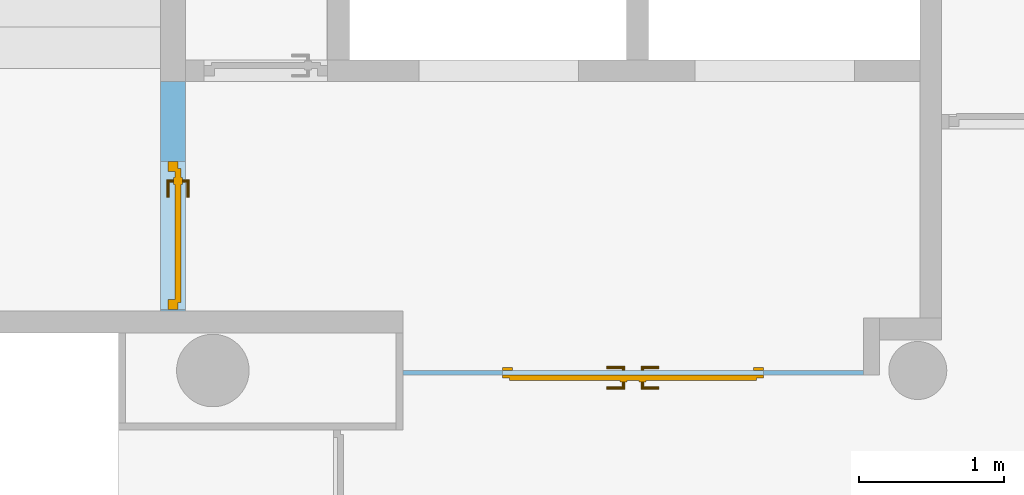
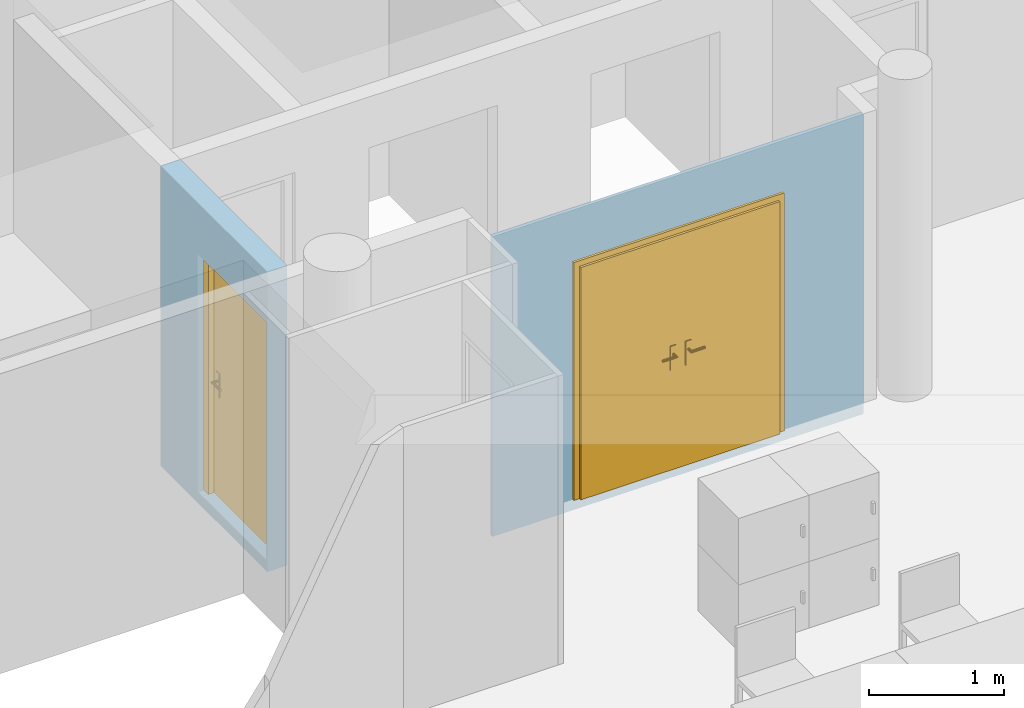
"""IFC4 building model written with IfcOpenShell, lengths in metres."""

from ifc_helpers import new_model, entity, si_unit, converted_unit, derived_unit, frame, frame_2d, origin, origin_with_axes, place, context, subcontext, project, spatial, polyline, rectangle, outline, extrude, faceted_brep, source, transform, mapped, material, layer, layer_set, layer_usage, element, fill, save


model = new_model("IFC4")

# Units and contexts
model_context = context("Model", 3, precision=1e-05, world=origin())
body_context = subcontext(model_context, "Body", "Model", "MODEL_VIEW")
ifc_project = project(units=[si_unit("LENGTHUNIT", "METRE"), si_unit("AREAUNIT", "SQUARE_METRE"), si_unit("VOLUMEUNIT", "CUBIC_METRE"), si_unit("MASSUNIT", "GRAM", prefix="KILO"), converted_unit("PLANEANGLEUNIT", "DEGREE", entity("IfcPlaneAngleMeasure", 0.0174532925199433), si_unit("PLANEANGLEUNIT", "RADIAN"), dimensions=[0, 0, 0, 0, 0, 0, 0]), derived_unit("THERMALTRANSMITTANCEUNIT", [(si_unit("POWERUNIT", "WATT"), 1), (si_unit("THERMODYNAMICTEMPERATUREUNIT", "KELVIN"), -1), (si_unit("LENGTHUNIT", "METRE"), -2)]), derived_unit("VOLUMETRICFLOWRATEUNIT", [(si_unit("LENGTHUNIT", "METRE"), 3), (converted_unit("TIMEUNIT", "hour", entity("IfcTimeMeasure", 3600.0), si_unit("TIMEUNIT", "SECOND"), dimensions=[0, 0, 1, 0, 0, 0, 0]), -1), (si_unit("LENGTHUNIT", "METRE"), -1)])], contexts=[model_context])

# Building, storeys
building_placement = place(None, origin())
building = spatial("IfcBuilding", under=ifc_project, at=building_placement, Name="HABITATGE PLURIFAMILIAR", CompositionType="ELEMENT")
storey_1_placement = place(building_placement, frame((0.0, 0.0, 18.29)))
storey_1 = spatial("IfcBuildingStorey", under=building, at=storey_1_placement, Name="PLANTA CINQUENA", CompositionType="ELEMENT", Elevation=18.29)
storey_2_placement = place(storey_1_placement, frame((0.0, 0.0, 15.28)))
storey_2 = spatial("IfcBuildingStorey", under=storey_1, at=storey_2_placement, Name="NOU", CompositionType="PARTIAL")

# Wall, opening, door
ifc_material_1 = material()
ifc_layer_1 = layer(ifc_material_1, 0.03)
ifc_layer_set_1 = layer_set([ifc_layer_1])
ifc_layer_usage_1 = layer_usage(ifc_layer_set_1, "AXIS2", "POSITIVE", 0.0)
wall_1_placement = place(storey_2_placement, frame((420.61763795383, 23.8994598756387, -15.38), z_axis=(0.0, 0.0, 1.0), x_axis=(-1.0, 0.0, 0.0)))
wall_1 = element("IfcWall", 1, at=wall_1_placement, inside=storey_2, material=ifc_layer_usage_1, Name="Evans P5", context=body_context, shape_type="SweptSolid", body=[
    extrude(rectangle(XDim=3.17065318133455, YDim=0.03, at=frame_2d((1.58532659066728, 0.015), x_axis=(1.0, 0.0))), origin_with_axes(), (0.0, 0.0, 1.0), 2.71),
])
opening_1_placement = place(wall_1_placement, frame((2.48717139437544, 0.03, 0.1), z_axis=(0.0, -1.0, 0.0), x_axis=(0.0, 0.0, 1.0)))
opening_1 = element("IfcOpeningElement", 2, at=opening_1_placement, cuts=wall_1, Name="Vano porta P5", ObjectType="Opening", context=body_context, shape_type="SweptSolid", body=[
    extrude(outline(polyline([(2.15, 1.79909702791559), (2.15, 0.0), (0.0, 0.0), (0.0, 1.79909702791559), (2.15, 1.79909702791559)])), origin_with_axes(), (0.0, 0.0, 1.0), 0.03),
])
shared_shape_1 = source(origin_with_axes(), body_context, "Body", "Brep", [
    faceted_brep([(1.79909702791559, 0.07, 2.15), (1.72909702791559, 0.07, 2.15), (1.72909702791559, 0.07, 0.0), (1.79909702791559, 0.07, 0.0), (1.79909702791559, 0.0, 0.0), (1.72909702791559, 0.0, 0.0), (1.72909702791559, 0.0, 2.15), (1.79909702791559, 0.0, 2.15)], [[[0, 1, 2, 3]], [[4, 5, 6, 7]], [[3, 4, 7, 0]], [[2, 5, 4, 3]], [[1, 6, 5, 2]], [[0, 7, 6, 1]]], orient=[[False], [False], [False], [False], [False], [False]]),
    faceted_brep([(0.07, 0.07, 2.15), (0.0, 0.07, 2.15), (0.0, 0.07, 0.0), (0.07, 0.07, 0.0), (0.07, 0.0, 0.0), (0.0, 0.0, 0.0), (0.0, 0.0, 2.15), (0.07, 0.0, 2.15)], [[[0, 1, 2, 3]], [[4, 5, 6, 7]], [[3, 4, 7, 0]], [[2, 5, 4, 3]], [[1, 6, 5, 2]], [[0, 7, 6, 1]]], orient=[[False], [False], [False], [False], [False], [False]]),
    faceted_brep([(1.72909702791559, 0.07, 2.15), (0.07, 0.07, 2.15), (0.07, 0.07, 2.08), (1.72909702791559, 0.07, 2.08), (1.72909702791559, 0.0, 2.08), (0.07, 0.0, 2.08), (0.07, 0.0, 2.15), (1.72909702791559, 0.0, 2.15)], [[[0, 1, 2, 3]], [[4, 5, 6, 7]], [[3, 4, 7, 0]], [[2, 5, 4, 3]], [[1, 6, 5, 2]], [[0, 7, 6, 1]]], orient=[[False], [False], [False], [False], [False], [False]]),
    faceted_brep([(1.74909702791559, 0.09, 2.1), (0.900048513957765, 0.09, 2.1), (0.900048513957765, 0.09, 0.0), (1.74909702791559, 0.09, 0.0), (1.74909702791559, 0.05, 0.0), (0.900048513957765, 0.05, 0.0), (0.900048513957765, 0.05, 2.1), (1.74909702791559, 0.05, 2.1)], [[[0, 1, 2, 3]], [[4, 5, 6, 7]], [[3, 4, 7, 0]], [[2, 5, 4, 3]], [[1, 6, 5, 2]], [[0, 7, 6, 1]]], orient=[[False], [False], [False], [False], [False], [False]]),
    faceted_brep([(0.930048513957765, 0.05, 2.08), (0.870048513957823, 0.05, 2.08), (0.870048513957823, 0.05, 0.0), (0.930048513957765, 0.05, 0.0), (0.930048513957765, 0.02, 0.0), (0.870048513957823, 0.02, 0.0), (0.870048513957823, 0.02, 2.08), (0.930048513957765, 0.02, 2.08)], [[[0, 1, 2, 3]], [[4, 5, 6, 7]], [[3, 4, 7, 0]], [[2, 5, 4, 3]], [[1, 6, 5, 2]], [[0, 7, 6, 1]]], orient=[[False], [False], [False], [False], [False], [False]]),
    faceted_brep([(0.990048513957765, 0.05, 1.125), (0.940048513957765, 0.05, 1.125), (0.940048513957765, 0.05, 0.91), (0.990048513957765, 0.05, 0.91), (0.990048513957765, 0.04, 0.91), (0.940048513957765, 0.04, 0.91), (0.940048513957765, 0.04, 1.125), (0.990048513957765, 0.04, 1.125)], [[[0, 1, 2, 3]], [[4, 5, 6, 7]], [[3, 4, 7, 0]], [[2, 5, 4, 3]], [[1, 6, 5, 2]], [[0, 7, 6, 1]]], orient=[[False], [False], [False], [False], [False], [False]]),
    faceted_brep([(0.965048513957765, 0.04, 1.06), (0.960048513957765, 0.04, 1.05866025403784), (0.956388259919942, 0.04, 1.055), (0.955048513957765, 0.04, 1.05), (0.956388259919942, 0.04, 1.045), (0.960048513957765, 0.04, 1.04133974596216), (0.965048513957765, 0.04, 1.04), (0.970048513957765, 0.04, 1.04133974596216), (0.973708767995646, 0.04, 1.045), (0.975048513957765, 0.04, 1.05), (0.973708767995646, 0.04, 1.055), (0.970048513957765, 0.04, 1.05866025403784), (0.965048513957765, 0.0, 1.06), (0.960048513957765, -0.005, 1.05866025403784), (0.956388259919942, -0.00866025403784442, 1.055), (0.955048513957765, -0.01, 1.05), (0.956388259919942, -0.00866025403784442, 1.045), (0.960048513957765, -0.005, 1.04133974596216), (0.965048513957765, 0.0, 1.04), (0.970048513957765, 0.005, 1.04133974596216), (0.973708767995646, 0.00866025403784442, 1.045), (0.975048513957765, 0.01, 1.05), (0.973708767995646, 0.00866025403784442, 1.055), (0.970048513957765, 0.005, 1.05866025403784), (1.08004851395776, 0.0, 1.06), (1.08004851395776, 0.005, 1.05866025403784), (1.08004851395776, 0.00866025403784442, 1.055), (1.08004851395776, 0.01, 1.05), (1.08004851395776, 0.00866025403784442, 1.045), (1.08004851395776, 0.005, 1.04133974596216), (1.08004851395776, 0.0, 1.04), (1.08004851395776, -0.005, 1.04133974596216), (1.08004851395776, -0.00866025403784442, 1.045), (1.08004851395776, -0.01, 1.05), (1.08004851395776, -0.00866025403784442, 1.055), (1.08004851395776, -0.005, 1.05866025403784)], [[[0, 1, 2, 3, 4, 5, 6, 7, 8, 9, 10, 11]], [[0, 12, 13, 1]], [[1, 13, 14, 2]], [[2, 14, 15, 3]], [[3, 15, 16, 4]], [[4, 16, 17, 5]], [[5, 17, 18, 6]], [[6, 18, 19, 7]], [[7, 19, 20, 8]], [[8, 20, 21, 9]], [[9, 21, 22, 10]], [[10, 22, 23, 11]], [[11, 23, 12, 0]], [[24, 25, 26, 27, 28, 29, 30, 31, 32, 33, 34, 35]], [[12, 24, 35, 13]], [[13, 35, 34, 14]], [[14, 34, 33, 15]], [[15, 33, 32, 16]], [[16, 32, 31, 17]], [[17, 31, 30, 18]], [[18, 30, 29, 19]], [[19, 29, 28, 20]], [[20, 28, 27, 21]], [[21, 27, 26, 22]], [[22, 26, 25, 23]], [[23, 25, 24, 12]]], orient=[[False], [False], [False], [False], [False], [False], [False], [False], [False], [False], [False], [False], [False], [False], [False], [False], [False], [False], [False], [False], [False], [False], [False], [False], [False], [False]]),
    faceted_brep([(0.990048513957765, 0.09, 1.125), (0.990048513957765, 0.09, 0.91), (0.940048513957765, 0.09, 0.91), (0.940048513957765, 0.09, 1.125), (0.990048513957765, 0.1, 0.91), (0.990048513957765, 0.1, 1.125), (0.940048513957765, 0.1, 1.125), (0.940048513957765, 0.1, 0.91)], [[[0, 1, 2, 3]], [[4, 5, 6, 7]], [[1, 0, 5, 4]], [[2, 1, 4, 7]], [[3, 2, 7, 6]], [[0, 3, 6, 5]]], orient=[[False], [False], [False], [False], [False], [False]]),
    faceted_brep([(0.965048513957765, 0.1, 1.06), (0.970048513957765, 0.1, 1.05866025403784), (0.973708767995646, 0.1, 1.055), (0.975048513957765, 0.1, 1.05), (0.973708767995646, 0.1, 1.045), (0.970048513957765, 0.1, 1.04133974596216), (0.965048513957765, 0.1, 1.04), (0.960048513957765, 0.1, 1.04133974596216), (0.956388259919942, 0.1, 1.045), (0.955048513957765, 0.1, 1.05), (0.956388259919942, 0.1, 1.055), (0.960048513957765, 0.1, 1.05866025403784), (0.960048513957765, 0.145, 1.05866025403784), (0.965048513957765, 0.14, 1.06), (0.956388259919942, 0.148660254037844, 1.055), (0.955048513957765, 0.15, 1.05), (0.956388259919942, 0.148660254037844, 1.045), (0.960048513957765, 0.145, 1.04133974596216), (0.965048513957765, 0.14, 1.04), (0.970048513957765, 0.135, 1.04133974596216), (0.973708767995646, 0.131339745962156, 1.045), (0.975048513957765, 0.13, 1.05), (0.973708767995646, 0.131339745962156, 1.055), (0.970048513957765, 0.135, 1.05866025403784), (1.08004851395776, 0.14, 1.06), (1.08004851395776, 0.145, 1.05866025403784), (1.08004851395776, 0.148660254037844, 1.055), (1.08004851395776, 0.15, 1.05), (1.08004851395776, 0.148660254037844, 1.045), (1.08004851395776, 0.145, 1.04133974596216), (1.08004851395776, 0.14, 1.04), (1.08004851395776, 0.135, 1.04133974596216), (1.08004851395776, 0.131339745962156, 1.045), (1.08004851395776, 0.13, 1.05), (1.08004851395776, 0.131339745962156, 1.055), (1.08004851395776, 0.135, 1.05866025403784)], [[[0, 1, 2, 3, 4, 5, 6, 7, 8, 9, 10, 11]], [[0, 11, 12, 13]], [[11, 10, 14, 12]], [[10, 9, 15, 14]], [[9, 8, 16, 15]], [[8, 7, 17, 16]], [[7, 6, 18, 17]], [[6, 5, 19, 18]], [[5, 4, 20, 19]], [[4, 3, 21, 20]], [[3, 2, 22, 21]], [[2, 1, 23, 22]], [[1, 0, 13, 23]], [[24, 25, 26, 27, 28, 29, 30, 31, 32, 33, 34, 35]], [[13, 12, 25, 24]], [[12, 14, 26, 25]], [[14, 15, 27, 26]], [[15, 16, 28, 27]], [[16, 17, 29, 28]], [[17, 18, 30, 29]], [[18, 19, 31, 30]], [[19, 20, 32, 31]], [[20, 21, 33, 32]], [[21, 22, 34, 33]], [[22, 23, 35, 34]], [[23, 13, 24, 35]]], orient=[[False], [False], [False], [False], [False], [False], [False], [False], [False], [False], [False], [False], [False], [False], [False], [False], [False], [False], [False], [False], [False], [False], [False], [False], [False], [False]]),
    faceted_brep([(0.899048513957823, 0.09, 2.1), (0.05, 0.09, 2.1), (0.05, 0.09, 0.0), (0.899048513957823, 0.09, 0.0), (0.899048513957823, 0.05, 0.0), (0.05, 0.05, 0.0), (0.05, 0.05, 2.1), (0.899048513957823, 0.05, 2.1)], [[[0, 1, 2, 3]], [[4, 5, 6, 7]], [[3, 4, 7, 0]], [[2, 5, 4, 3]], [[1, 6, 5, 2]], [[0, 7, 6, 1]]], orient=[[False], [False], [False], [False], [False], [False]]),
    faceted_brep([(0.859048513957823, 0.05, 1.125), (0.809048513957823, 0.05, 1.125), (0.809048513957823, 0.05, 0.91), (0.859048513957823, 0.05, 0.91), (0.859048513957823, 0.04, 0.91), (0.809048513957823, 0.04, 0.91), (0.809048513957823, 0.04, 1.125), (0.859048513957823, 0.04, 1.125)], [[[0, 1, 2, 3]], [[4, 5, 6, 7]], [[3, 4, 7, 0]], [[2, 5, 4, 3]], [[1, 6, 5, 2]], [[0, 7, 6, 1]]], orient=[[False], [False], [False], [False], [False], [False]]),
    faceted_brep([(0.834048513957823, 0.04, 1.06), (0.829048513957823, 0.04, 1.05866025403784), (0.825388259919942, 0.04, 1.055), (0.824048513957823, 0.04, 1.05), (0.825388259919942, 0.04, 1.045), (0.829048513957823, 0.04, 1.04133974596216), (0.834048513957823, 0.04, 1.04), (0.839048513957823, 0.04, 1.04133974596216), (0.842708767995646, 0.04, 1.045), (0.844048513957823, 0.04, 1.05), (0.842708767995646, 0.04, 1.055), (0.839048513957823, 0.04, 1.05866025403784), (0.839048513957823, -0.005, 1.05866025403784), (0.834048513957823, 0.0, 1.06), (0.842708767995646, -0.00866025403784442, 1.055), (0.844048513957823, -0.01, 1.05), (0.842708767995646, -0.00866025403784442, 1.045), (0.839048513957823, -0.005, 1.04133974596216), (0.834048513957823, 0.0, 1.04), (0.829048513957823, 0.005, 1.04133974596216), (0.825388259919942, 0.00866025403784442, 1.045), (0.824048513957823, 0.01, 1.05), (0.825388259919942, 0.00866025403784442, 1.055), (0.829048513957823, 0.005, 1.05866025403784), (0.719048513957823, 0.0, 1.06), (0.719048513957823, -0.005, 1.05866025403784), (0.719048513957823, -0.00866025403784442, 1.055), (0.719048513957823, -0.01, 1.05), (0.719048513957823, -0.00866025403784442, 1.045), (0.719048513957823, -0.005, 1.04133974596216), (0.719048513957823, 0.0, 1.04), (0.719048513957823, 0.005, 1.04133974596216), (0.719048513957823, 0.00866025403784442, 1.045), (0.719048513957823, 0.01, 1.05), (0.719048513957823, 0.00866025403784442, 1.055), (0.719048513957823, 0.005, 1.05866025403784)], [[[0, 1, 2, 3, 4, 5, 6, 7, 8, 9, 10, 11]], [[0, 11, 12, 13]], [[11, 10, 14, 12]], [[10, 9, 15, 14]], [[9, 8, 16, 15]], [[8, 7, 17, 16]], [[7, 6, 18, 17]], [[6, 5, 19, 18]], [[5, 4, 20, 19]], [[4, 3, 21, 20]], [[3, 2, 22, 21]], [[2, 1, 23, 22]], [[1, 0, 13, 23]], [[24, 25, 26, 27, 28, 29, 30, 31, 32, 33, 34, 35]], [[13, 12, 25, 24]], [[12, 14, 26, 25]], [[14, 15, 27, 26]], [[15, 16, 28, 27]], [[16, 17, 29, 28]], [[17, 18, 30, 29]], [[18, 19, 31, 30]], [[19, 20, 32, 31]], [[20, 21, 33, 32]], [[21, 22, 34, 33]], [[22, 23, 35, 34]], [[23, 13, 24, 35]]], orient=[[False], [False], [False], [False], [False], [False], [False], [False], [False], [False], [False], [False], [False], [False], [False], [False], [False], [False], [False], [False], [False], [False], [False], [False], [False], [False]]),
    faceted_brep([(0.859048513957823, 0.09, 1.125), (0.859048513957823, 0.09, 0.91), (0.809048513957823, 0.09, 0.91), (0.809048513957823, 0.09, 1.125), (0.859048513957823, 0.1, 0.91), (0.859048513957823, 0.1, 1.125), (0.809048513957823, 0.1, 1.125), (0.809048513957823, 0.1, 0.91)], [[[0, 1, 2, 3]], [[4, 5, 6, 7]], [[1, 0, 5, 4]], [[2, 1, 4, 7]], [[3, 2, 7, 6]], [[0, 3, 6, 5]]], orient=[[False], [False], [False], [False], [False], [False]]),
    faceted_brep([(0.834048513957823, 0.1, 1.06), (0.839048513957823, 0.1, 1.05866025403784), (0.842708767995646, 0.1, 1.055), (0.844048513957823, 0.1, 1.05), (0.842708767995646, 0.1, 1.045), (0.839048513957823, 0.1, 1.04133974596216), (0.834048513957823, 0.1, 1.04), (0.829048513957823, 0.1, 1.04133974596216), (0.825388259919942, 0.1, 1.045), (0.824048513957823, 0.1, 1.05), (0.825388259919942, 0.1, 1.055), (0.829048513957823, 0.1, 1.05866025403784), (0.834048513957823, 0.14, 1.06), (0.839048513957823, 0.145, 1.05866025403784), (0.842708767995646, 0.148660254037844, 1.055), (0.844048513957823, 0.15, 1.05), (0.842708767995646, 0.148660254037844, 1.045), (0.839048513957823, 0.145, 1.04133974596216), (0.834048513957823, 0.14, 1.04), (0.829048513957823, 0.135, 1.04133974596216), (0.825388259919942, 0.131339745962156, 1.045), (0.824048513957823, 0.13, 1.05), (0.825388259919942, 0.131339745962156, 1.055), (0.829048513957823, 0.135, 1.05866025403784), (0.719048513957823, 0.14, 1.06), (0.719048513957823, 0.135, 1.05866025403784), (0.719048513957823, 0.131339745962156, 1.055), (0.719048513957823, 0.13, 1.05), (0.719048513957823, 0.131339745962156, 1.045), (0.719048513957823, 0.135, 1.04133974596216), (0.719048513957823, 0.14, 1.04), (0.719048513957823, 0.145, 1.04133974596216), (0.719048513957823, 0.148660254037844, 1.045), (0.719048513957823, 0.15, 1.05), (0.719048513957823, 0.148660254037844, 1.055), (0.719048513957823, 0.145, 1.05866025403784)], [[[0, 1, 2, 3, 4, 5, 6, 7, 8, 9, 10, 11]], [[0, 12, 13, 1]], [[1, 13, 14, 2]], [[2, 14, 15, 3]], [[3, 15, 16, 4]], [[4, 16, 17, 5]], [[5, 17, 18, 6]], [[6, 18, 19, 7]], [[7, 19, 20, 8]], [[8, 20, 21, 9]], [[9, 21, 22, 10]], [[10, 22, 23, 11]], [[11, 23, 12, 0]], [[24, 25, 26, 27, 28, 29, 30, 31, 32, 33, 34, 35]], [[12, 24, 35, 13]], [[13, 35, 34, 14]], [[14, 34, 33, 15]], [[15, 33, 32, 16]], [[16, 32, 31, 17]], [[17, 31, 30, 18]], [[18, 30, 29, 19]], [[19, 29, 28, 20]], [[20, 28, 27, 21]], [[21, 27, 26, 22]], [[22, 26, 25, 23]], [[23, 25, 24, 12]]], orient=[[False], [False], [False], [False], [False], [False], [False], [False], [False], [False], [False], [False], [False], [False], [False], [False], [False], [False], [False], [False], [False], [False], [False], [False], [False], [False]]),
])
door_1_placement = place(opening_1_placement, frame((0.0, 1.79909702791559, 0.05), z_axis=(1.0, 0.0, 0.0), x_axis=(0.0, -1.0, 0.0)))
door_1 = element("IfcDoor", 3, at=door_1_placement, inside=storey_2, Name="Porta P5", OperationType="USERDEFINED", OverallHeight=2.15, OverallWidth=1.7991, PredefinedType="DOOR", context=body_context, shape_type="MappedRepresentation", body=[
    mapped(shared_shape_1, transform((0.0, 0.0, 0.0), x_axis=(1.0, 0.0, 0.0), y_axis=(0.0, 1.0, 0.0), z_axis=(0.0, 0.0, 1.0), scale=1.0)),
])
fill(opening_1, door_1)

ifc_material_2 = material()
ifc_layer_2 = layer(ifc_material_2, 0.17)
ifc_layer_set_2 = layer_set([ifc_layer_2])
ifc_layer_usage_2 = layer_usage(ifc_layer_set_2, "AXIS2", "POSITIVE", 0.0)
wall_2_placement = place(storey_2_placement, frame((415.776984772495, 25.8894598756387, -15.38), z_axis=(0.0, 0.0, 1.0), x_axis=(0.0, -1.0, 0.0)))
wall_2 = element("IfcWall", 4, at=wall_2_placement, inside=storey_2, material=ifc_layer_usage_2, Name="Evans P5", context=body_context, shape_type="SweptSolid", body=[
    extrude(rectangle(XDim=1.58000002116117, YDim=0.17, at=frame_2d((0.790000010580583, 0.085), x_axis=(1.0, 0.0))), origin_with_axes(), (0.0, 0.0, 1.0), 2.71),
])
opening_2_placement = place(wall_2_placement, frame((1.57066940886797, 0.17, 0.1), z_axis=(0.0, -1.0, 0.0), x_axis=(0.0, 0.0, 1.0)))
opening_2 = element("IfcOpeningElement", 5, at=opening_2_placement, cuts=wall_2, Name="Vano porta P5", ObjectType="Opening", context=body_context, shape_type="SweptSolid", body=[
    extrude(outline(polyline([(2.15, 1.0208737), (2.15, 0.0), (0.0, 0.0), (0.0, 1.0208737), (2.15, 1.0208737)])), origin_with_axes(), (0.0, 0.0, 1.0), 0.17),
])
shared_shape_2 = source(origin_with_axes(), body_context, "Body", "Brep", [
    faceted_brep([(0.0, 0.0699999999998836, 2.15), (0.0, 0.0699999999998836, 0.0), (0.0700000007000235, 0.0699999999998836, 0.0), (0.0700000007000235, 0.0699999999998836, 2.15), (0.0, 0.0, 0.0), (0.0, 0.0, 2.15), (0.0700000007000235, 0.0, 2.15), (0.0700000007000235, 0.0, 0.0)], [[[0, 1, 2, 3]], [[4, 5, 6, 7]], [[1, 0, 5, 4]], [[2, 1, 4, 7]], [[3, 2, 7, 6]], [[0, 3, 6, 5]]], orient=[[False], [False], [False], [False], [False], [False]]),
    faceted_brep([(0.950873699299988, 0.0699999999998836, 2.15), (0.950873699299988, 0.0699999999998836, 0.0), (1.02087370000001, 0.0699999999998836, 0.0), (1.02087370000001, 0.0699999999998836, 2.15), (0.950873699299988, 0.0, 0.0), (0.950873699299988, 0.0, 2.15), (1.02087370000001, 0.0, 2.15), (1.02087370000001, 0.0, 0.0)], [[[0, 1, 2, 3]], [[4, 5, 6, 7]], [[1, 0, 5, 4]], [[2, 1, 4, 7]], [[3, 2, 7, 6]], [[0, 3, 6, 5]]], orient=[[False], [False], [False], [False], [False], [False]]),
    faceted_brep([(0.0700000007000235, 0.0699999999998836, 2.15), (0.0700000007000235, 0.0699999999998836, 2.08), (0.950873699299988, 0.0699999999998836, 2.08), (0.950873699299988, 0.0699999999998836, 2.15), (0.0700000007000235, 0.0, 2.08), (0.0700000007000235, 0.0, 2.15), (0.950873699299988, 0.0, 2.15), (0.950873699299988, 0.0, 2.08)], [[[0, 1, 2, 3]], [[4, 5, 6, 7]], [[1, 0, 5, 4]], [[2, 1, 4, 7]], [[3, 2, 7, 6]], [[0, 3, 6, 5]]], orient=[[False], [False], [False], [False], [False], [False]]),
    faceted_brep([(0.050000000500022, 0.0899999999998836, 2.1), (0.050000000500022, 0.0899999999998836, 0.0), (0.970873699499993, 0.0899999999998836, 0.0), (0.970873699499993, 0.0899999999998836, 2.1), (0.050000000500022, 0.0499999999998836, 0.0), (0.050000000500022, 0.0499999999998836, 2.1), (0.970873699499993, 0.0499999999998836, 2.1), (0.970873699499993, 0.0499999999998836, 0.0)], [[[0, 1, 2, 3]], [[4, 5, 6, 7]], [[1, 0, 5, 4]], [[2, 1, 4, 7]], [[3, 2, 7, 6]], [[0, 3, 6, 5]]], orient=[[False], [False], [False], [False], [False], [False]]),
    faceted_brep([(0.110000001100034, 0.0499999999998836, 1.125), (0.110000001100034, 0.0499999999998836, 0.91), (0.160000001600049, 0.0499999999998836, 0.91), (0.160000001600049, 0.0499999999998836, 1.125), (0.110000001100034, 0.0399999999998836, 0.91), (0.110000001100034, 0.0399999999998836, 1.125), (0.160000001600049, 0.0399999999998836, 1.125), (0.160000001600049, 0.0399999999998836, 0.91)], [[[0, 1, 2, 3]], [[4, 5, 6, 7]], [[1, 0, 5, 4]], [[2, 1, 4, 7]], [[3, 2, 7, 6]], [[0, 3, 6, 5]]], orient=[[False], [False], [False], [False], [False], [False]]),
    faceted_brep([(0.135000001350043, 0.0399999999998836, 1.06), (0.130000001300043, 0.0399999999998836, 1.05866025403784), (0.126339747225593, 0.0399999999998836, 1.055), (0.125000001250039, 0.0399999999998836, 1.05), (0.126339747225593, 0.0399999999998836, 1.045), (0.130000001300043, 0.0399999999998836, 1.04133974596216), (0.135000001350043, 0.0399999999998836, 1.04), (0.140000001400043, 0.0399999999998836, 1.04133974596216), (0.14366025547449, 0.0399999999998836, 1.045), (0.145000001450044, 0.0399999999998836, 1.05), (0.14366025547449, 0.0399999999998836, 1.055), (0.140000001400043, 0.0399999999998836, 1.05866025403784), (0.135000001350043, 0.0, 1.06), (0.130000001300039, -0.00500000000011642, 1.05866025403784), (0.126339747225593, -0.00866025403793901, 1.055), (0.125000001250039, -0.0100000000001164, 1.05), (0.126339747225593, -0.00866025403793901, 1.045), (0.130000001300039, -0.00500000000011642, 1.04133974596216), (0.135000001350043, 0.0, 1.04), (0.140000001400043, 0.00499999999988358, 1.04133974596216), (0.14366025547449, 0.00866025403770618, 1.045), (0.145000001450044, 0.00999999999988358, 1.05), (0.14366025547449, 0.00866025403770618, 1.055), (0.140000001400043, 0.00499999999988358, 1.05866025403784), (0.25000000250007, 0.0, 1.06), (0.25000000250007, 0.00499999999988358, 1.05866025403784), (0.25000000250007, 0.00866025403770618, 1.055), (0.25000000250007, 0.00999999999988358, 1.05), (0.25000000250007, 0.00866025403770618, 1.045), (0.25000000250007, 0.00499999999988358, 1.04133974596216), (0.25000000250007, 0.0, 1.04), (0.25000000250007, -0.00500000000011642, 1.04133974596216), (0.25000000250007, -0.00866025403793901, 1.045), (0.25000000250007, -0.0100000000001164, 1.05), (0.25000000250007, -0.00866025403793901, 1.055), (0.25000000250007, -0.00500000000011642, 1.05866025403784)], [[[0, 1, 2, 3, 4, 5, 6, 7, 8, 9, 10, 11]], [[0, 12, 13, 1]], [[1, 13, 14, 2]], [[2, 14, 15, 3]], [[3, 15, 16, 4]], [[4, 16, 17, 5]], [[5, 17, 18, 6]], [[6, 18, 19, 7]], [[7, 19, 20, 8]], [[8, 20, 21, 9]], [[9, 21, 22, 10]], [[10, 22, 23, 11]], [[11, 23, 12, 0]], [[24, 25, 26, 27, 28, 29, 30, 31, 32, 33, 34, 35]], [[12, 24, 35, 13]], [[13, 35, 34, 14]], [[14, 34, 33, 15]], [[15, 33, 32, 16]], [[16, 32, 31, 17]], [[17, 31, 30, 18]], [[18, 30, 29, 19]], [[19, 29, 28, 20]], [[20, 28, 27, 21]], [[21, 27, 26, 22]], [[22, 26, 25, 23]], [[23, 25, 24, 12]]], orient=[[False], [False], [False], [False], [False], [False], [False], [False], [False], [False], [False], [False], [False], [False], [False], [False], [False], [False], [False], [False], [False], [False], [False], [False], [False], [False]]),
    faceted_brep([(0.110000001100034, 0.0899999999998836, 1.125), (0.160000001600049, 0.0899999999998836, 1.125), (0.160000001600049, 0.0899999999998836, 0.91), (0.110000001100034, 0.0899999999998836, 0.91), (0.110000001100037, 0.0999999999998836, 0.91), (0.160000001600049, 0.0999999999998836, 0.91), (0.160000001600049, 0.0999999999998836, 1.125), (0.110000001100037, 0.0999999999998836, 1.125)], [[[0, 1, 2, 3]], [[4, 5, 6, 7]], [[3, 4, 7, 0]], [[2, 5, 4, 3]], [[1, 6, 5, 2]], [[0, 7, 6, 1]]], orient=[[False], [False], [False], [False], [False], [False]]),
    faceted_brep([(0.135000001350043, 0.0999999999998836, 1.06), (0.140000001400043, 0.0999999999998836, 1.05866025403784), (0.14366025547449, 0.0999999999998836, 1.055), (0.145000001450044, 0.0999999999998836, 1.05), (0.14366025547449, 0.0999999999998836, 1.045), (0.140000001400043, 0.0999999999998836, 1.04133974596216), (0.135000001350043, 0.0999999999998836, 1.04), (0.130000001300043, 0.0999999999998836, 1.04133974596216), (0.126339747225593, 0.0999999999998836, 1.045), (0.125000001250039, 0.0999999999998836, 1.05), (0.126339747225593, 0.0999999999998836, 1.055), (0.130000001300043, 0.0999999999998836, 1.05866025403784), (0.130000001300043, 0.144999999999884, 1.05866025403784), (0.135000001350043, 0.139999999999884, 1.06), (0.126339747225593, 0.148660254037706, 1.055), (0.125000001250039, 0.149999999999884, 1.05), (0.126339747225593, 0.148660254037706, 1.045), (0.130000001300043, 0.144999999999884, 1.04133974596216), (0.135000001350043, 0.139999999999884, 1.04), (0.140000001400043, 0.134999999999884, 1.04133974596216), (0.14366025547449, 0.131339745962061, 1.045), (0.145000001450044, 0.129999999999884, 1.05), (0.14366025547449, 0.131339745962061, 1.055), (0.140000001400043, 0.134999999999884, 1.05866025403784), (0.25000000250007, 0.139999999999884, 1.06), (0.25000000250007, 0.144999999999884, 1.05866025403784), (0.25000000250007, 0.148660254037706, 1.055), (0.25000000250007, 0.149999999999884, 1.05), (0.25000000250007, 0.148660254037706, 1.045), (0.25000000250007, 0.144999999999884, 1.04133974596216), (0.25000000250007, 0.139999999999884, 1.04), (0.25000000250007, 0.134999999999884, 1.04133974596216), (0.25000000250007, 0.131339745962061, 1.045), (0.25000000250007, 0.129999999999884, 1.05), (0.25000000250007, 0.131339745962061, 1.055), (0.25000000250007, 0.134999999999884, 1.05866025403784)], [[[0, 1, 2, 3, 4, 5, 6, 7, 8, 9, 10, 11]], [[0, 11, 12, 13]], [[11, 10, 14, 12]], [[10, 9, 15, 14]], [[9, 8, 16, 15]], [[8, 7, 17, 16]], [[7, 6, 18, 17]], [[6, 5, 19, 18]], [[5, 4, 20, 19]], [[4, 3, 21, 20]], [[3, 2, 22, 21]], [[2, 1, 23, 22]], [[1, 0, 13, 23]], [[24, 25, 26, 27, 28, 29, 30, 31, 32, 33, 34, 35]], [[13, 12, 25, 24]], [[12, 14, 26, 25]], [[14, 15, 27, 26]], [[15, 16, 28, 27]], [[16, 17, 29, 28]], [[17, 18, 30, 29]], [[18, 19, 31, 30]], [[19, 20, 32, 31]], [[20, 21, 33, 32]], [[21, 22, 34, 33]], [[22, 23, 35, 34]], [[23, 13, 24, 35]]], orient=[[False], [False], [False], [False], [False], [False], [False], [False], [False], [False], [False], [False], [False], [False], [False], [False], [False], [False], [False], [False], [False], [False], [False], [False], [False], [False]]),
])
door_2_placement = place(opening_2_placement, frame((0.0, 1.0208737, 0.12), z_axis=(1.0, 0.0, 0.0), x_axis=(0.0, -1.0, 0.0)))
door_2 = element("IfcDoor", 6, at=door_2_placement, inside=storey_2, Name="Porta P5", OperationType="USERDEFINED", OverallHeight=2.15, OverallWidth=1.02087, PredefinedType="DOOR", context=body_context, shape_type="MappedRepresentation", body=[
    mapped(shared_shape_2, transform((0.0, 0.0, 0.0), x_axis=(1.0, 0.0, 0.0), y_axis=(0.0, 1.0, 0.0), z_axis=(0.0, 0.0, 1.0), scale=1.0)),
])
fill(opening_2, door_2)

save(model, "model.ifc")
